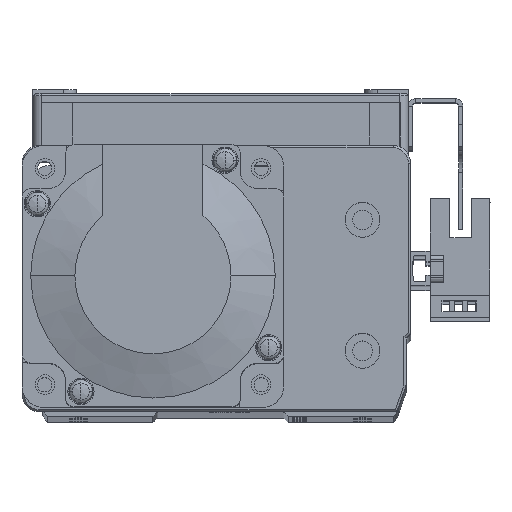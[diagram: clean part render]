
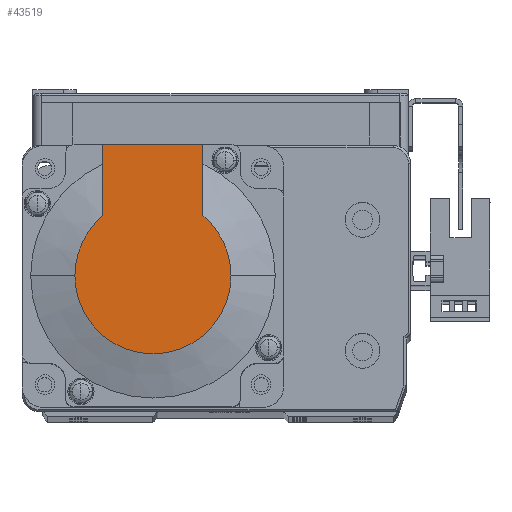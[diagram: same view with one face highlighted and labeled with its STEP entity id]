
A CAD part, top view. The second image highlights one B-rep face of the part: STEP entity #43519.
In plain terms, the highlighted planar face has unit normal (0, 0, 1) as drawn and (-1, 0, 0) by its records, which use the part's own axes.
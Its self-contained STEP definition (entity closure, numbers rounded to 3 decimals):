
#69 = CIRCLE ( 'NONE', #15301, 17.881 ) ;
#145 = VECTOR ( 'NONE', #41087, 1000. ) ;
#167 = LINE ( 'NONE', #41077, #145 ) ;
#193 = VECTOR ( 'NONE', #41183, 1000. ) ;
#223 = VECTOR ( 'NONE', #41191, 1000. ) ;
#259 = LINE ( 'NONE', #41159, #223 ) ;
#289 = LINE ( 'NONE', #41158, #193 ) ;
#1395 = CIRCLE ( 'NONE', #30139, 17.881 ) ;
#1413 = CIRCLE ( 'NONE', #30152, 17.881 ) ;
#2893 = VERTEX_POINT ( 'NONE', #12181 ) ;
#2899 = VERTEX_POINT ( 'NONE', #12194 ) ;
#2902 = VERTEX_POINT ( 'NONE', #12234 ) ;
#11264 = CARTESIAN_POINT ( 'NONE',  ( -99., 30., -11.45 ) ) ;
#11266 = CARTESIAN_POINT ( 'NONE',  ( -99., 30., 11.45 ) ) ;
#11325 = CARTESIAN_POINT ( 'NONE',  ( -99., 13.735, -11.45 ) ) ;
#12181 = CARTESIAN_POINT ( 'NONE',  ( -99., 0., 17.881 ) ) ;
#12194 = CARTESIAN_POINT ( 'NONE',  ( -99., 13.735, 11.45 ) ) ;
#12234 = CARTESIAN_POINT ( 'NONE',  ( -99., 0., -17.881 ) ) ;
#13947 = EDGE_LOOP ( 'NONE', ( #47307, #47290, #47222, #47260, #47263, #47276 ) ) ;
#15301 = AXIS2_PLACEMENT_3D ( 'NONE', #17637, #17650, #17632 ) ;
#17632 = DIRECTION ( 'NONE',  ( 0., 0., -1. ) ) ;
#17637 = CARTESIAN_POINT ( 'NONE',  ( -99., 0., 0. ) ) ;
#17650 = DIRECTION ( 'NONE',  ( -1., 0., 0. ) ) ;
#19053 = VERTEX_POINT ( 'NONE', #11325 ) ;
#19100 = VERTEX_POINT ( 'NONE', #11266 ) ;
#19106 = VERTEX_POINT ( 'NONE', #11264 ) ;
#21848 = EDGE_CURVE ( 'NONE', #19053, #2902, #69, .T. ) ;
#21886 = EDGE_CURVE ( 'NONE', #19106, #19053, #167, .T. ) ;
#21917 = EDGE_CURVE ( 'NONE', #19106, #19100, #289, .T. ) ;
#21926 = EDGE_CURVE ( 'NONE', #19100, #2899, #259, .T. ) ;
#24382 = DIRECTION ( 'NONE',  ( -1., 0., 0. ) ) ;
#24405 = CARTESIAN_POINT ( 'NONE',  ( -99., -8.941, 0. ) ) ;
#24416 = DIRECTION ( 'NONE',  ( 0., 0., 1. ) ) ;
#24444 = PLANE ( 'NONE',  #30554 ) ;
#30139 = AXIS2_PLACEMENT_3D ( 'NONE', #36624, #36640, #36665 ) ;
#30152 = AXIS2_PLACEMENT_3D ( 'NONE', #36670, #36654, #36667 ) ;
#30554 = AXIS2_PLACEMENT_3D ( 'NONE', #24405, #24382, #24416 ) ;
#36624 = CARTESIAN_POINT ( 'NONE',  ( -99., 0., 0. ) ) ;
#36640 = DIRECTION ( 'NONE',  ( -1., 0., 0. ) ) ;
#36654 = DIRECTION ( 'NONE',  ( -1., 0., 0. ) ) ;
#36665 = DIRECTION ( 'NONE',  ( 0., 0., -1. ) ) ;
#36667 = DIRECTION ( 'NONE',  ( 0., 0., -1. ) ) ;
#36670 = CARTESIAN_POINT ( 'NONE',  ( -99., 0., 0. ) ) ;
#41077 = CARTESIAN_POINT ( 'NONE',  ( -99., -8.941, -11.45 ) ) ;
#41087 = DIRECTION ( 'NONE',  ( 0., -1., 0. ) ) ;
#41158 = CARTESIAN_POINT ( 'NONE',  ( -99., 30., 25. ) ) ;
#41159 = CARTESIAN_POINT ( 'NONE',  ( -99., 0., 11.45 ) ) ;
#41183 = DIRECTION ( 'NONE',  ( 0., 0., 1. ) ) ;
#41191 = DIRECTION ( 'NONE',  ( 0., -1., 0. ) ) ;
#41730 = EDGE_CURVE ( 'NONE', #2902, #2893, #1395, .T. ) ;
#41731 = EDGE_CURVE ( 'NONE', #2893, #2899, #1413, .T. ) ;
#43519 = ADVANCED_FACE ( 'NONE', ( #44042 ), #24444, .T. ) ;
#44042 = FACE_OUTER_BOUND ( 'NONE', #13947, .T. ) ;
#47222 = ORIENTED_EDGE ( 'NONE', *, *, #41730, .T. ) ;
#47260 = ORIENTED_EDGE ( 'NONE', *, *, #41731, .T. ) ;
#47263 = ORIENTED_EDGE ( 'NONE', *, *, #21926, .F. ) ;
#47276 = ORIENTED_EDGE ( 'NONE', *, *, #21917, .F. ) ;
#47290 = ORIENTED_EDGE ( 'NONE', *, *, #21848, .T. ) ;
#47307 = ORIENTED_EDGE ( 'NONE', *, *, #21886, .T. ) ;
